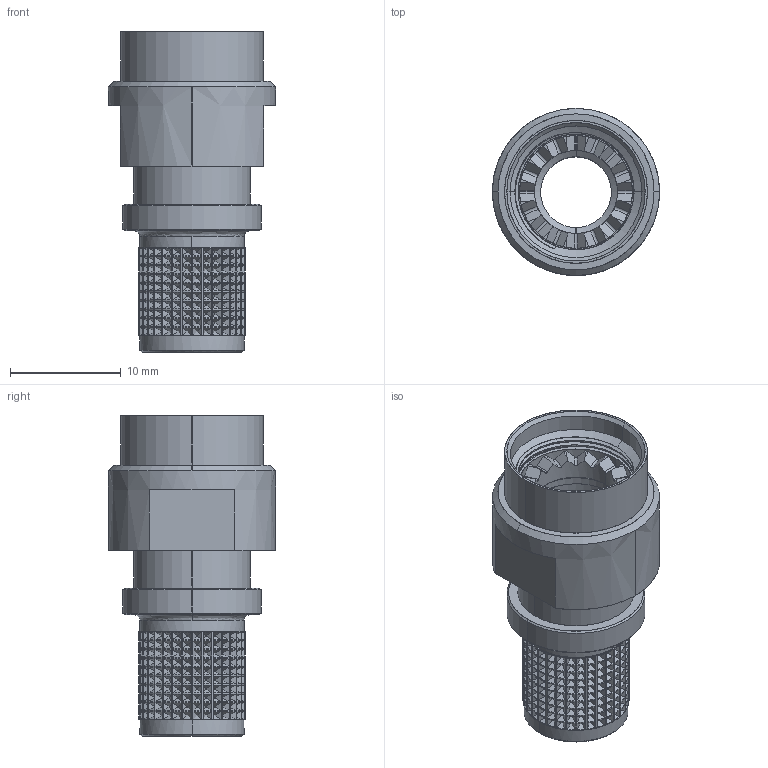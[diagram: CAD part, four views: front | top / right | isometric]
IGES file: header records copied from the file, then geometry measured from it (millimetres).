
Start section: SolidWorks IGES file using analytic representation for surfaces
Global section: file name: C:\Users\dmt\Desktop\CMASD RA88-64.IGS; native system: SolidWorks 2016; preprocessor: SolidWorks 2016; author: dmt; date: 170309.151447; units: millimetre
Bounding box: 15.1 x 15.1 x 29 mm (x, y, z)
Surface area: 2303.2 mm2 (no closed solid volume)
Topology: 0 solids, 0 shells, 1617 faces, 10048 edges, 10048 vertices
Faces by surface type: revolution 1374, bspline 243
